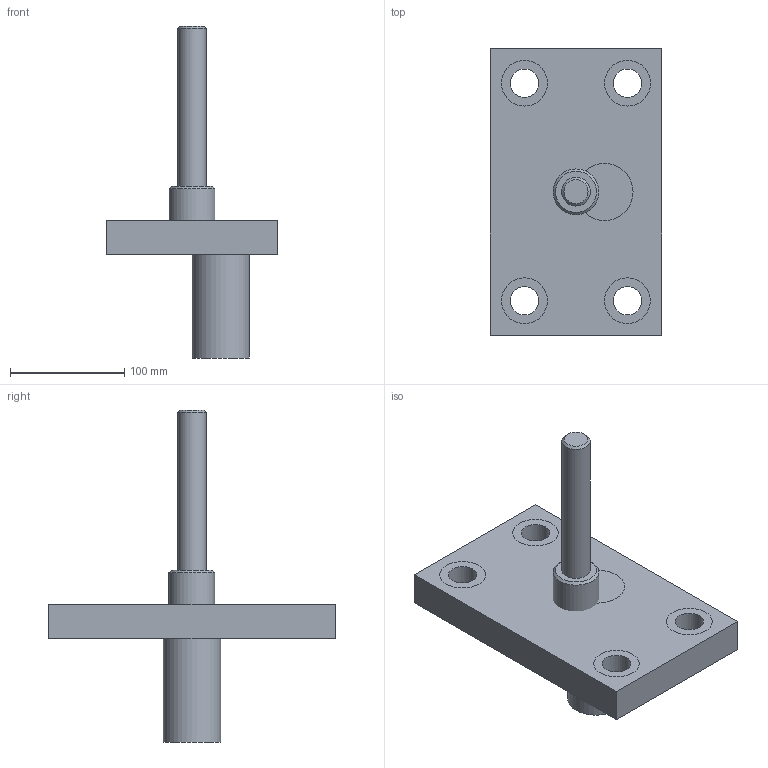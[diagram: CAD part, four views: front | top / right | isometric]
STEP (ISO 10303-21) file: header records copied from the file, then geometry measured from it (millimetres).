
FILE_DESCRIPTION(/* description */ (''),/* implementation_level */ '2;1');
FILE_NAME(/* name */ 'Assembly.prt',/* time_stamp */ '2005-04-11T11:40:14+05:00',/* author */ (''),/* organization */ (''),/* preprocessor_version */ 'ST-DEVELOPER v9',/* originating_system */ 'UGS - NX 3.0',/* authorisation */ '');
FILE_SCHEMA (('CONFIG_CONTROL_DESIGN'));
Length unit declared in the file: millimetre
Products named in the file (6): guidebush; Top plate; guidepillar; Bottomplate; subassembly; Assembly
Bounding box: 150 x 250 x 290 mm (x, y, z)
Volume: 2302456.5 mm3; surface area: 253407.2 mm2
Topology: 4 solids, 4 shells, 34 faces, 72 edges, 47 vertices
Faces by surface type: plane 17, cylinder 13, cone 4
Full cylindrical faces by diameter (mm): 24.785 x4, 25 x2, 40 x5, 50 x2
Entity records: 1354 total; most frequent: DIRECTION 154, CARTESIAN_POINT 135, ORIENTED_EDGE 108, EDGE_LOOP 72, AXIS2_PLACEMENT_3D 65, EDGE_CURVE 54, FACE_BOUND 51, VERTEX_POINT 46
